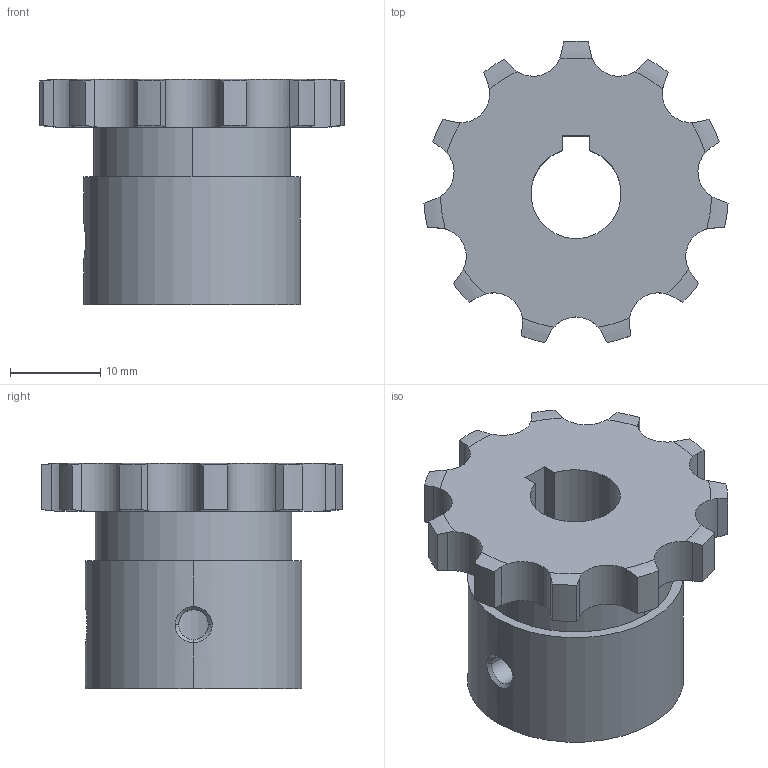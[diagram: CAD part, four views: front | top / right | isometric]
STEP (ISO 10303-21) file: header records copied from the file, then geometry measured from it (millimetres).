
FILE_DESCRIPTION((''),'2;1');
FILE_NAME('510-101-1011_PRT','2021-02-13T',('Brieden'),('Brieden'),'PRO/ENGINEER BY PARAMETRIC TECHNOLOGY CORPORATION, 2010160','PRO/ENGINEER BY PARAMETRIC TECHNOLOGY CORPORATION, 2010160','');
FILE_SCHEMA(('AUTOMOTIVE_DESIGN { 1 0 10303 214 1 1 1 1 }'));
Length unit declared in the file: millimetre
Products named in the file (1): 510-101-1011_PRT
Bounding box: 33.73 x 33.44 x 25 mm (x, y, z)
Volume: 10129.5 mm3; surface area: 4546.2 mm2
Topology: 1 solids, 1 shells, 91 faces, 261 edges, 172 vertices
Faces by surface type: cylinder 53, torus 22, plane 10, bspline 6
Entity records: 4474 total; most frequent: CARTESIAN_POINT 1381, ORIENTED_EDGE 522, DIRECTION 403, PRESENTATION_STYLE_ASSIGNMENT 262, STYLED_ITEM 262, CURVE_STYLE 261, EDGE_CURVE 261, VERTEX_POINT 172
